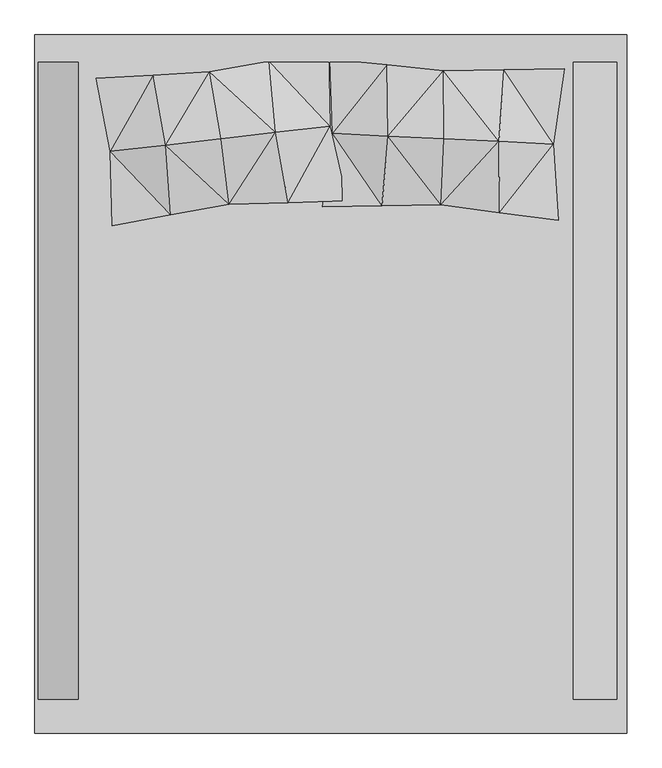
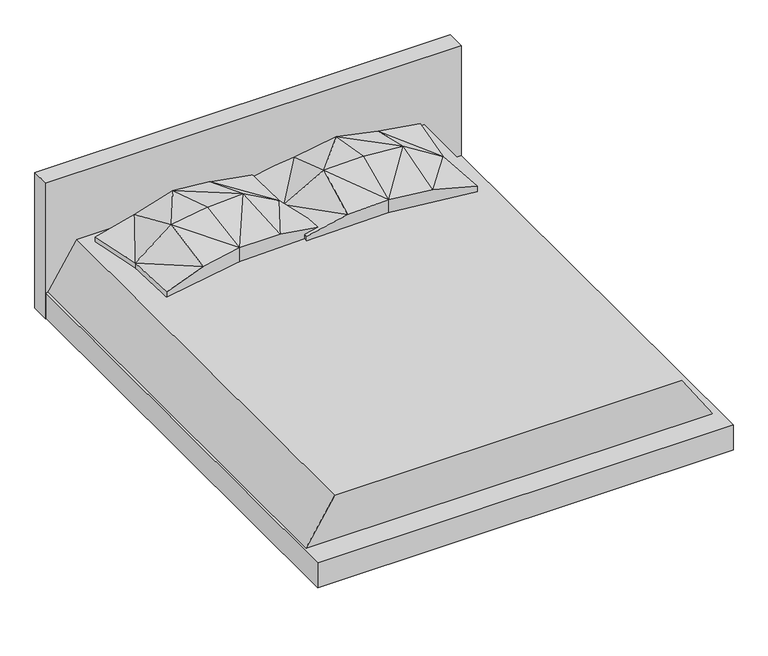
"""IFC4 building model written with IfcOpenShell, lengths in millimetres: geographic element geometry, Enscape AssetDefinition - Bed 006 208 x 245 cm (82 x 96 in) : Enscape AssetDefinition - Bed 006 208 x 245 cm (82 x 96 in)."""

from ifc_helpers import new_model, si_unit, origin, place, context, project, spatial, triangles, source, transform, mapped, element, save


def geographic_element_3f57ac11(model_context):
    return source(origin(), model_context, "Body", "Tessellation", [
        triangles([(-544.0709693, 500.8282599, 493.9830019), (-741.6911379, 464.6827191, 493.9830019), (-748.7109129, 715.7470819, 545.2753289), (-797.1732891, 963.1856123, 493.9830019), (-604.2733266, 974.3873268, 493.9830019), (-748.7109129, 715.7470819, 493.9830019), (-544.0709693, 500.8282599, 584.3370435), (-741.6911379, 464.6827191, 545.5468966), (-797.1732891, 963.1856123, 545.5468966), (-604.2733266, 974.3873268, 584.3370435), (-561.0623377, 737.2892263, 661.9787069), (-346.4508007, 536.9748908, 493.9830019), (-146.1652788, 542.6545587, 587.6734314), (-346.4508007, 536.9748908, 590.4657392), (-188.2244485, 780.1591387, 665.3151312), (-411.3723104, 985.5890413, 634.2506029), (-373.4137988, 758.8322428, 672.9712772), (-411.3723104, 985.5890413, 493.9830019), (-210.1421695, 1022.3561285, 493.9830019), (-210.1421695, 1022.3561285, 587.6734314), (54.1202431, 548.3341902, 552.2197452), (-3.0350948, 801.4861073, 551.9481774), (-8.9110073, 1059.1242331, 493.9830019), (-8.9110073, 1059.1242331, 552.2197452), (-3.0350948, 801.4861073, 493.9830019), (-146.1652788, 542.6545587, 493.9830019), (54.1202431, 548.3341902, 493.9830019), (-29.0762457, 528.1987186, 490.3283921), (-3.1837767, 1029.1102947, 490.3283921), (-3.1837767, 1029.1102947, 541.8922869), (4.6111239, 777.0913027, 490.3283921), (188.987665, 1008.9578911, 490.3283921), (4.6111239, 777.0913027, 541.6207191), (171.7881334, 531.8979115, 490.3283921), (171.7881334, 531.8979115, 580.6834147), (-29.0762457, 528.1987186, 541.8922869), (193.2726869, 767.9929482, 658.3242062), (188.987665, 1008.9578911, 580.6834147), (381.1591109, 988.8065775, 630.5959568), (381.9352627, 758.895611, 669.3177212), (372.6525444, 535.5980853, 586.8111294), (571.2183675, 508.8025915, 584.0188943), (381.1591109, 988.8065775, 490.3283921), (754.3360783, 741.0706089, 548.2935313), (585.6871064, 992.5354197, 584.0188943), (568.1356341, 749.9826376, 661.6606304), (769.7841179, 482.0071341, 548.5651354), (790.2159376, 996.2654972, 490.3283921), (790.2159376, 996.2654972, 548.5651354), (585.6871064, 992.5354197, 490.3283921), (571.2183675, 508.8025915, 490.3283921), (372.6525444, 535.5980853, 490.3283921), (769.7841179, 482.0071341, 490.3283921), (754.3360783, 741.0706089, 490.3283921), (1003.2980621, 1019.1108324, 858.27174), (1003.2980621, 1110.7763128, 165.170823), (-1004.572839, 1019.1118498, 165.170823), (-1004.572839, 1110.7763128, 165.170823), (-1004.572839, 1110.7763128, 858.27174), (-1004.572839, 1019.1118498, 858.27174), (1003.2980621, 1019.1108324, 165.170823), (1003.2980621, 1110.7763128, 858.27174), (-998.1873276, -1140.4849646, 292.375177), (974.1266596, -1140.4849646, 292.375177), (974.1266596, 1018.0770292, 292.3761944), (822.1112291, 1018.0770292, 519.3213899), (-855.3822361, -1140.4849646, 519.3213899), (822.1112291, -1140.4849646, 519.3213899), (-855.3822361, 1018.0770292, 519.3213899), (-998.1873276, 1018.0770292, 292.3761944), (1003.2980621, -1255.0603111, 297.682175), (-1004.572839, -1255.0603111, 297.682175), (1003.2980621, 1018.0770292, 170.1110192), (-1004.572839, 1018.0770292, 170.1110192), (1003.2980621, -1255.0603111, 170.1100382), (-1004.572839, -1255.0603111, 170.1100382), (1003.2980621, 1018.0770292, 297.682175), (-1004.572839, 1018.0770292, 297.682175), (764.9826668, -944.6222105, 198.2426415), (764.9826668, -984.646439, 0.0), (764.9826668, -944.6222105, 0.0), (764.9826668, -984.646439, 198.2426415), (804.2892065, -944.6222105, 198.2426415), (804.2892065, -984.646439, 0.0), (804.2892065, -984.646439, 198.2426415), (804.2892065, -944.6222105, 0.0), (764.9826668, 784.2399216, 0.0), (804.2892065, 784.2399216, 0.0), (804.2892065, 824.2632053, 0.0), (764.9826668, 824.2632053, 0.0), (804.2892065, 784.2399216, 198.2426415), (804.2892065, 824.2632053, 198.2426415), (764.9826668, 824.2632053, 198.2426415), (764.9826668, 784.2399216, 198.2426415), (-764.7299206, -944.6222105, 198.2426415), (-764.7299206, -984.646439, 198.2426415), (-804.0355156, -944.6222105, 198.2426415), (-804.0355156, -944.6222105, 0.0), (-804.0355156, -984.646439, 198.2426415), (-764.7299206, -944.6222105, 0.0), (-804.0355156, -984.646439, 0.0), (-764.7299206, -984.646439, 0.0), (-804.0355156, 784.2399216, 0.0), (-804.0355156, 784.2399216, 198.2426415), (-804.0355156, 824.2632053, 198.2426415), (-804.0355156, 824.2632053, 0.0), (-764.7299206, 824.2632053, 0.0), (-764.7299206, 824.2632053, 198.2426415), (-764.7299206, 784.2399216, 0.0), (-764.7299206, 784.2399216, 198.2426415)], [[106, 103, 104], [107, 106, 105], [109, 107, 108], [103, 109, 110], [104, 110, 108], [103, 106, 107], [106, 104, 105], [107, 105, 108], [109, 108, 110], [103, 110, 104], [104, 108, 105], [103, 107, 109], [98, 101, 99], [100, 98, 97], [102, 100, 95], [101, 102, 96], [99, 96, 95], [101, 98, 100], [98, 99, 97], [100, 97, 95], [102, 95, 96], [101, 96, 99], [99, 95, 97], [101, 100, 102], [90, 87, 94], [89, 90, 93], [88, 89, 92], [87, 88, 91], [94, 91, 92], [87, 90, 89], [90, 94, 93], [89, 93, 92], [88, 92, 91], [87, 91, 94], [94, 92, 93], [87, 89, 88], [81, 80, 82], [86, 81, 79], [84, 86, 83], [80, 84, 85], [82, 85, 83], [80, 81, 86], [81, 82, 79], [86, 79, 83], [84, 83, 85], [80, 85, 82], [82, 83, 79], [80, 86, 84], [73, 75, 76], [77, 73, 74], [71, 77, 78], [75, 71, 72], [76, 72, 78], [75, 73, 77], [73, 76, 74], [77, 74, 78], [71, 78, 72], [75, 72, 76], [76, 78, 74], [75, 77, 71], [65, 64, 63], [66, 65, 70], [68, 66, 69], [64, 68, 67], [63, 67, 69], [64, 65, 66], [65, 63, 70], [66, 70, 69], [68, 69, 67], [64, 67, 63], [63, 69, 70], [64, 66, 68], [62, 56, 58], [55, 62, 59], [61, 55, 60], [56, 61, 57], [58, 57, 60], [56, 62, 55], [62, 58, 59], [55, 59, 60], [61, 60, 57], [56, 57, 58], [58, 60, 59], [56, 55, 61], [53, 54, 47], [51, 53, 47], [54, 53, 51], [51, 52, 50], [54, 51, 50], [50, 48, 54], [48, 50, 49], [48, 49, 44], [54, 44, 47], [54, 48, 44], [42, 47, 44], [52, 51, 42], [51, 47, 42], [42, 44, 46], [44, 49, 45], [50, 45, 49], [44, 45, 46], [52, 43, 50], [50, 43, 45], [43, 39, 45], [45, 39, 46], [39, 40, 46], [41, 42, 46], [52, 42, 41], [41, 46, 40], [52, 41, 35], [41, 40, 37], [35, 41, 37], [40, 39, 37], [39, 38, 37], [43, 38, 39], [32, 43, 52], [43, 32, 38], [32, 29, 30], [32, 30, 38], [38, 30, 33], [35, 37, 33], [38, 33, 37], [36, 35, 33], [34, 35, 36], [34, 52, 35], [32, 52, 34], [31, 33, 30], [31, 32, 34], [31, 29, 32], [29, 31, 30], [28, 36, 33], [31, 28, 33], [28, 34, 36], [28, 31, 34], [27, 25, 21], [26, 27, 21], [25, 27, 26], [26, 12, 19], [25, 26, 19], [19, 23, 25], [23, 19, 24], [23, 24, 22], [25, 22, 21], [25, 23, 22], [13, 21, 22], [12, 26, 13], [26, 21, 13], [13, 22, 15], [22, 24, 20], [19, 20, 24], [22, 20, 15], [12, 18, 19], [19, 18, 20], [18, 16, 20], [20, 16, 15], [16, 17, 15], [14, 13, 15], [12, 13, 14], [14, 15, 17], [12, 14, 7], [14, 17, 11], [7, 14, 11], [17, 16, 11], [16, 10, 11], [18, 10, 16], [5, 18, 12], [18, 5, 10], [5, 4, 9], [5, 9, 10], [10, 9, 3], [7, 11, 3], [10, 3, 11], [8, 7, 3], [1, 7, 8], [1, 12, 7], [5, 12, 1], [6, 3, 9], [6, 5, 1], [6, 4, 5], [4, 6, 9], [2, 8, 3], [6, 2, 3], [2, 1, 8], [2, 6, 1]]),
    ])


if __name__ == "__main__":
    model = new_model("IFC4")
    model_context = context("Model", 3, world=origin())
    ifc_project = project(units=[si_unit("LENGTHUNIT", "METRE", prefix="MILLI")], contexts=[model_context])
    site = spatial("IfcSite", under=ifc_project)
    building = spatial("IfcBuilding", under=site)
    placement = place(None, origin())
    geographic_element_shape = geographic_element_3f57ac11(model_context)
    element("IfcGeographicElement", 1, ObjectType="Enscape AssetDefinition - Bed 006 208 x 245 cm (82 x 96 in) : Enscape AssetDefinition - Bed 006 208 x 245 cm (82 x 96 in)", at=placement, inside=building, context=model_context, shape_type="MappedRepresentation", body=[
        mapped(geographic_element_shape, transform((0.0, 0.0, 0.0), x_axis=(1.0, 0.0, 0.0), y_axis=(0.0, 1.0, 0.0), z_axis=(0.0, 0.0, 1.0))),
    ])
    save(model, "model.ifc")
